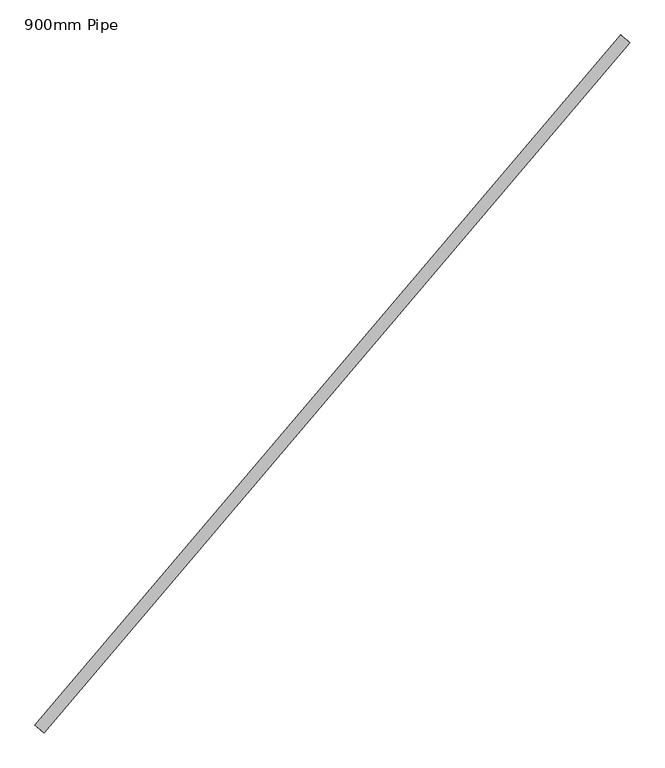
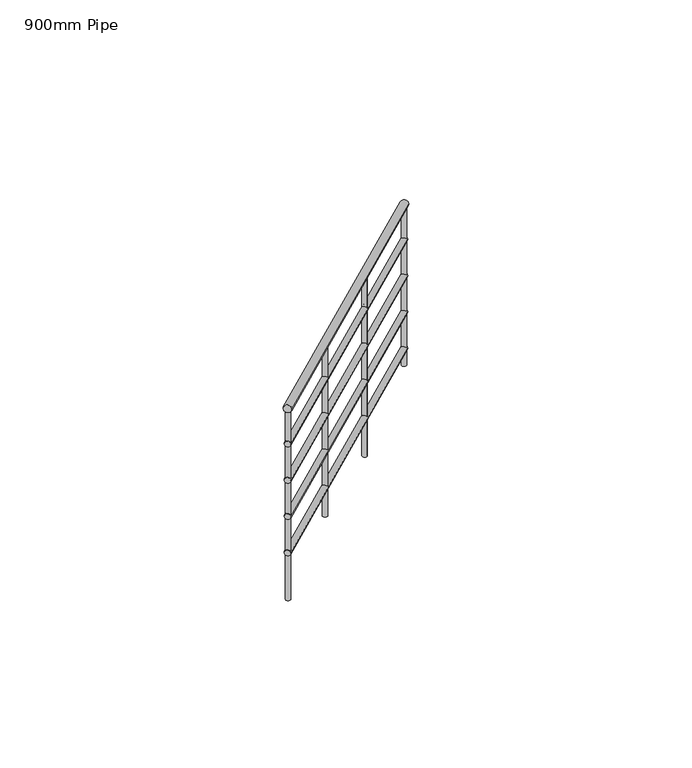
"""IFC4 building model written with IfcOpenShell, lengths in millimetres: railing geometry, 900mm Pipe."""

from ifc_helpers import new_model, si_unit, frame, origin, place, context, project, spatial, circle_curve, ellipse_curve, source, transform, mapped, element, save
from ifc_brep_helpers import plane_surface, cylinder_surface, advanced_brep


def railing_900mm_pipe_11be932a(model_context):
    return source(origin(), model_context, "Body", "AdvancedBrep", [
        advanced_brep(
        [(827493.1273699, 68499.8364293, 1058.386247), (827523.6148801, 68473.9421881, 1058.386247), (825588.5710626, 66257.4390055, 1954.8568352), (825619.0585727, 66231.5447644, 1954.8568352)],
        [
            (0, 1, ellipse_curve(frame((827508.371125, 68486.8893087, 1058.386247), z_axis=(0.6473560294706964, 0.7621877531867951, 0.0), x_axis=(0.0, 0.0, -1.0)), 20.9078706, 20.0)),
            (1, 0, ellipse_curve(frame((827508.371125, 68486.8893087, 1058.386247), z_axis=(0.6473560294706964, 0.7621877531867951, 0.0), x_axis=(0.0, 0.0, -1.0)), 20.9078706, 20.0)),
            (2, 3, ellipse_curve(frame((825603.8148176, 66244.4918849, 1954.8568352), z_axis=(-0.6473560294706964, -0.7621877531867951, 0.0), x_axis=(0.0, 0.0, -1.0)), 20.9078706, 20.0)),
            (3, 2, ellipse_curve(frame((825603.8148176, 66244.4918849, 1954.8568352), z_axis=(-0.6473560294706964, -0.7621877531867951, 0.0), x_axis=(0.0, 0.0, -1.0)), 20.9078706, 20.0)),
            (1, 3),
            (2, 0),
        ],
        [
            plane_surface(frame((827508.371125, 68486.8893087, 1079.2941176), z_axis=(0.6473560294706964, 0.7621877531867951, 0.0), x_axis=(0.7621877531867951, -0.6473560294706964, 0.0))),
            plane_surface(frame((825603.8148176, 66244.4918849, 1975.7647059), z_axis=(-0.6473560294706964, -0.7621877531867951, 0.0), x_axis=(0.7621877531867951, -0.6473560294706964, 0.0))),
            cylinder_surface(frame((827504.5973256, 68482.4460912, 1060.1625663), z_axis=(0.6192462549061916, 0.7290917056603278, -0.2914778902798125), x_axis=(0.7621877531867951, -0.6473560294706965, 0.0)), 20.0),
        ],
        [
            (0, [[1, 2]]),
            (1, [[3, 4]]),
            (2, [[-2, 5, -3, 6]]),
            (2, [[-1, -6, -4, -5]]),
        ],
    ),
        advanced_brep(
        [(827496.9383087, 68496.5996492, 863.6132147), (827519.8039413, 68477.1789683, 863.6132147), (825592.3820013, 66254.2022254, 1760.0838029), (825615.2476339, 66234.7815445, 1760.0838029)],
        [
            (0, 1, ellipse_curve(frame((827508.371125, 68486.8893087, 863.6132147), z_axis=(0.6473560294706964, 0.7621877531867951, 0.0), x_axis=(0.0, 0.0, -1.0)), 15.680903, 15.0)),
            (1, 0, ellipse_curve(frame((827508.371125, 68486.8893087, 863.6132147), z_axis=(0.6473560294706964, 0.7621877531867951, 0.0), x_axis=(0.0, 0.0, -1.0)), 15.680903, 15.0)),
            (2, 3, ellipse_curve(frame((825603.8148176, 66244.4918849, 1760.0838029), z_axis=(-0.6473560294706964, -0.7621877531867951, 0.0), x_axis=(0.0, 0.0, -1.0)), 15.680903, 15.0)),
            (3, 2, ellipse_curve(frame((825603.8148176, 66244.4918849, 1760.0838029), z_axis=(-0.6473560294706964, -0.7621877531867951, 0.0), x_axis=(0.0, 0.0, -1.0)), 15.680903, 15.0)),
            (0, 2),
            (3, 1),
        ],
        [
            plane_surface(frame((827508.371125, 68486.8893087, 879.2941176), z_axis=(0.6473560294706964, 0.7621877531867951, 0.0), x_axis=(0.7621877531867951, -0.6473560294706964, 0.0))),
            plane_surface(frame((825603.8148176, 66244.4918849, 1775.7647059), z_axis=(-0.6473560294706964, -0.7621877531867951, 0.0), x_axis=(0.7621877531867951, -0.6473560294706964, 0.0))),
            cylinder_surface(frame((827505.5407755, 68483.5568955, 864.9454542), z_axis=(0.6192462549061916, 0.7290917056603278, -0.2914778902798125), x_axis=(0.7621877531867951, -0.6473560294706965, 0.0)), 15.0),
        ],
        [
            (0, [[1, 2]]),
            (1, [[3, 4]]),
            (2, [[-1, 5, -4, 6]]),
            (2, [[-2, -6, -3, -5]]),
        ],
    ),
        advanced_brep(
        [(827496.9383087, 68496.5996492, 663.6132147), (827519.8039413, 68477.1789683, 663.6132147), (825592.3820013, 66254.2022254, 1560.0838029), (825615.2476339, 66234.7815445, 1560.0838029)],
        [
            (0, 1, ellipse_curve(frame((827508.371125, 68486.8893087, 663.6132147), z_axis=(0.6473560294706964, 0.7621877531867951, 0.0), x_axis=(0.0, 0.0, -1.0)), 15.680903, 15.0)),
            (1, 0, ellipse_curve(frame((827508.371125, 68486.8893087, 663.6132147), z_axis=(0.6473560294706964, 0.7621877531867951, 0.0), x_axis=(0.0, 0.0, -1.0)), 15.680903, 15.0)),
            (2, 3, ellipse_curve(frame((825603.8148176, 66244.4918849, 1560.0838029), z_axis=(-0.6473560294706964, -0.7621877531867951, 0.0), x_axis=(0.0, 0.0, -1.0)), 15.680903, 15.0)),
            (3, 2, ellipse_curve(frame((825603.8148176, 66244.4918849, 1560.0838029), z_axis=(-0.6473560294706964, -0.7621877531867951, 0.0), x_axis=(0.0, 0.0, -1.0)), 15.680903, 15.0)),
            (0, 2),
            (3, 1),
        ],
        [
            plane_surface(frame((827508.371125, 68486.8893087, 679.2941176), z_axis=(0.6473560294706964, 0.7621877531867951, 0.0), x_axis=(0.7621877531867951, -0.6473560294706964, 0.0))),
            plane_surface(frame((825603.8148176, 66244.4918849, 1575.7647059), z_axis=(-0.6473560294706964, -0.7621877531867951, 0.0), x_axis=(0.7621877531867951, -0.6473560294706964, 0.0))),
            cylinder_surface(frame((827505.5407755, 68483.5568955, 664.9454542), z_axis=(0.6192462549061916, 0.7290917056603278, -0.2914778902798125), x_axis=(0.7621877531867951, -0.6473560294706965, 0.0)), 15.0),
        ],
        [
            (0, [[1, 2]]),
            (1, [[3, 4]]),
            (2, [[-1, 5, -4, 6]]),
            (2, [[-2, -6, -3, -5]]),
        ],
    ),
        advanced_brep(
        [(827496.9383087, 68496.5996492, 463.6132147), (827519.8039413, 68477.1789683, 463.6132147), (825592.3820013, 66254.2022254, 1360.0838029), (825615.2476339, 66234.7815445, 1360.0838029)],
        [
            (0, 1, ellipse_curve(frame((827508.371125, 68486.8893087, 463.6132147), z_axis=(0.6473560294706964, 0.7621877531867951, 0.0), x_axis=(0.0, 0.0, -1.0)), 15.680903, 15.0)),
            (1, 0, ellipse_curve(frame((827508.371125, 68486.8893087, 463.6132147), z_axis=(0.6473560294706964, 0.7621877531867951, 0.0), x_axis=(0.0, 0.0, -1.0)), 15.680903, 15.0)),
            (2, 3, ellipse_curve(frame((825603.8148176, 66244.4918849, 1360.0838029), z_axis=(-0.6473560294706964, -0.7621877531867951, 0.0), x_axis=(0.0, 0.0, -1.0)), 15.680903, 15.0)),
            (3, 2, ellipse_curve(frame((825603.8148176, 66244.4918849, 1360.0838029), z_axis=(-0.6473560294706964, -0.7621877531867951, 0.0), x_axis=(0.0, 0.0, -1.0)), 15.680903, 15.0)),
            (0, 2),
            (3, 1),
        ],
        [
            plane_surface(frame((827508.371125, 68486.8893087, 479.2941176), z_axis=(0.6473560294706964, 0.7621877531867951, 0.0), x_axis=(0.7621877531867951, -0.6473560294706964, 0.0))),
            plane_surface(frame((825603.8148176, 66244.4918849, 1375.7647059), z_axis=(-0.6473560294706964, -0.7621877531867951, 0.0), x_axis=(0.7621877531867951, -0.6473560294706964, 0.0))),
            cylinder_surface(frame((827505.5407755, 68483.5568955, 464.9454542), z_axis=(0.6192462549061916, 0.7290917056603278, -0.2914778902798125), x_axis=(0.7621877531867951, -0.6473560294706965, 0.0)), 15.0),
        ],
        [
            (0, [[1, 2]]),
            (1, [[3, 4]]),
            (2, [[-1, 5, -4, 6]]),
            (2, [[-2, -6, -3, -5]]),
        ],
    ),
        advanced_brep(
        [(827496.9383087, 68496.5996492, 263.6132147), (827519.8039413, 68477.1789683, 263.6132147), (825592.3820013, 66254.2022254, 1160.0838029), (825615.2476339, 66234.7815445, 1160.0838029)],
        [
            (0, 1, ellipse_curve(frame((827508.371125, 68486.8893087, 263.6132147), z_axis=(0.6473560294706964, 0.7621877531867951, 0.0), x_axis=(0.0, 0.0, -1.0)), 15.680903, 15.0)),
            (1, 0, ellipse_curve(frame((827508.371125, 68486.8893087, 263.6132147), z_axis=(0.6473560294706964, 0.7621877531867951, 0.0), x_axis=(0.0, 0.0, -1.0)), 15.680903, 15.0)),
            (2, 3, ellipse_curve(frame((825603.8148176, 66244.4918849, 1160.0838029), z_axis=(-0.6473560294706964, -0.7621877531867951, 0.0), x_axis=(0.0, 0.0, -1.0)), 15.680903, 15.0)),
            (3, 2, ellipse_curve(frame((825603.8148176, 66244.4918849, 1160.0838029), z_axis=(-0.6473560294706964, -0.7621877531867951, 0.0), x_axis=(0.0, 0.0, -1.0)), 15.680903, 15.0)),
            (0, 2),
            (3, 1),
        ],
        [
            plane_surface(frame((827508.371125, 68486.8893087, 279.2941176), z_axis=(0.6473560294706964, 0.7621877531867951, 0.0), x_axis=(0.7621877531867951, -0.6473560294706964, 0.0))),
            plane_surface(frame((825603.8148176, 66244.4918849, 1175.7647059), z_axis=(-0.6473560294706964, -0.7621877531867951, 0.0), x_axis=(0.7621877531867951, -0.6473560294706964, 0.0))),
            cylinder_surface(frame((827505.5407755, 68483.5568955, 264.9454542), z_axis=(0.6192462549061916, 0.7290917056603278, -0.2914778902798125), x_axis=(0.7621877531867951, -0.6473560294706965, 0.0)), 15.0),
        ],
        [
            (0, [[1, 2]]),
            (1, [[3, 4]]),
            (2, [[-1, 5, -4, 6]]),
            (2, [[-2, -6, -3, -5]]),
        ],
    ),
        advanced_brep(
        [(826223.186413, 66954.421852, 1646.8965794), (826204.1317192, 66970.6057527, 1646.8965794), (826204.1317192, 66970.6057527, 717.1764706), (826223.186413, 66954.421852, 717.1764706)],
        [
            (0, 1, ellipse_curve(frame((826213.6590661, 66962.5138024, 1646.8965794), z_axis=(-0.18868996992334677, -0.22216087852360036, -0.9565775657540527), x_axis=(-0.6192462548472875, -0.7290917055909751, 0.29147789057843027)), 13.0674191, 12.5)),
            (1, 2),
            (2, 3, circle_curve(frame((826213.6590661, 66962.5138024, 717.1764706), z_axis=(0.0, 0.0, 1.0000000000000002), x_axis=(-0.7621877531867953, 0.6473560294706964, 0.0)), 12.5)),
            (3, 0),
            (3, 2, circle_curve(frame((826213.6590661, 66962.5138024, 717.1764706), z_axis=(0.0, 0.0, 1.0000000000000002), x_axis=(-0.7621877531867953, 0.6473560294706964, 0.0)), 12.5)),
            (1, 0, ellipse_curve(frame((826213.6590661, 66962.5138024, 1646.8965794), z_axis=(-0.18868996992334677, -0.22216087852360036, -0.9565775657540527), x_axis=(-0.6192462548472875, -0.7290917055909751, 0.29147789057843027)), 13.0674191, 12.5)),
        ],
        [
            cylinder_surface(frame((826213.6590661, 66962.5138024, 617.1764706), z_axis=(0.0, 0.0, 1.0000000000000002), x_axis=(-0.7621877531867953, 0.6473560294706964, 0.0)), 12.5),
            plane_surface(frame((826178.4204715, 66959.6430093, 1654.5143069), z_axis=(0.18868996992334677, 0.22216087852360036, 0.9565775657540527), x_axis=(0.7621877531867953, -0.6473560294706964, 0.0))),
            plane_surface(frame((826210.788273, 66997.7523969, 717.1764706), z_axis=(0.0, 0.0, -1.0000000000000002), x_axis=(0.7621877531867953, -0.6473560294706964, 0.0))),
        ],
        [
            (0, [[1, 2, 3, 4]]),
            (0, [[5, -2, 6, -4]]),
            (1, [[-6, -1]]),
            (2, [[-5, -3]]),
        ],
    ),
        advanced_brep(
        [(826870.5424425, 67716.6096052, 1342.1874779), (826851.4877486, 67732.7935059, 1342.1874779), (826851.4877486, 67732.7935059, 358.5882353), (826870.5424425, 67716.6096052, 358.5882353)],
        [
            (0, 1, ellipse_curve(frame((826861.0150955, 67724.7015555, 1342.1874779), z_axis=(-0.18868996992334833, -0.2221608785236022, -0.956577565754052), x_axis=(-0.6192462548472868, -0.7290917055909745, 0.2914778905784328)), 13.0674191, 12.5)),
            (1, 2),
            (2, 3, circle_curve(frame((826861.0150955, 67724.7015555, 358.5882353), z_axis=(0.0, 0.0, 1.0000000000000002), x_axis=(-0.7621877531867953, 0.6473560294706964, 0.0)), 12.5)),
            (3, 0),
            (3, 2, circle_curve(frame((826861.0150955, 67724.7015555, 358.5882353), z_axis=(0.0, 0.0, 1.0000000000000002), x_axis=(-0.7621877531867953, 0.6473560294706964, 0.0)), 12.5)),
            (1, 0, ellipse_curve(frame((826861.0150955, 67724.7015555, 1342.1874779), z_axis=(-0.18868996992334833, -0.2221608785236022, -0.956577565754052), x_axis=(-0.6192462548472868, -0.7290917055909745, 0.2914778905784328)), 13.0674191, 12.5)),
        ],
        [
            cylinder_surface(frame((826861.0150955, 67724.7015555, 258.5882353), z_axis=(0.0, 0.0, 1.0000000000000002), x_axis=(-0.7621877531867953, 0.6473560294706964, 0.0)), 12.5),
            plane_surface(frame((826825.776501, 67721.8307624, 1349.8052054), z_axis=(0.18868996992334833, 0.2221608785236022, 0.956577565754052), x_axis=(0.7621877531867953, -0.6473560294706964, 0.0))),
            plane_surface(frame((826858.1443024, 67759.9401501, 358.5882353), z_axis=(0.0, 0.0, -1.0000000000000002), x_axis=(0.7621877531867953, -0.6473560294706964, 0.0))),
        ],
        [
            (0, [[1, 2, 3, 4]]),
            (0, [[5, -2, 6, -4]]),
            (1, [[-6, -1]]),
            (2, [[-5, -3]]),
        ],
    ),
        advanced_brep(
        [(825621.4341149, 66245.9272815, 1930.1401008), (825602.3794211, 66262.1111822, 1930.1401008), (825602.3794211, 66262.1111822, 896.4705882), (825621.4341149, 66245.9272815, 896.4705882)],
        [
            (0, 1, ellipse_curve(frame((825611.906768, 66254.0192319, 1930.1401008), z_axis=(-0.18868996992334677, -0.22216087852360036, -0.9565775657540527), x_axis=(-0.6192462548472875, -0.7290917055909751, 0.29147789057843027)), 13.0674191, 12.5)),
            (1, 2),
            (2, 3, circle_curve(frame((825611.906768, 66254.0192319, 896.4705882), z_axis=(0.0, 0.0, 1.0000000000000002), x_axis=(-0.7621877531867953, 0.6473560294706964, 0.0)), 12.5)),
            (3, 0),
            (3, 2, circle_curve(frame((825611.906768, 66254.0192319, 896.4705882), z_axis=(0.0, 0.0, 1.0000000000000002), x_axis=(-0.7621877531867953, 0.6473560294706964, 0.0)), 12.5)),
            (1, 0, ellipse_curve(frame((825611.906768, 66254.0192319, 1930.1401008), z_axis=(-0.18868996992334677, -0.22216087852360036, -0.9565775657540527), x_axis=(-0.6192462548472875, -0.7290917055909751, 0.29147789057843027)), 13.0674191, 12.5)),
        ],
        [
            cylinder_surface(frame((825611.906768, 66254.0192319, 796.4705882), z_axis=(0.0, 0.0, 1.0000000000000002), x_axis=(-0.7621877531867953, 0.6473560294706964, 0.0)), 12.5),
            plane_surface(frame((825576.6681734, 66251.1484388, 1937.7578284), z_axis=(0.18868996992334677, 0.22216087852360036, 0.9565775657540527), x_axis=(0.7621877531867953, -0.6473560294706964, 0.0))),
            plane_surface(frame((825609.0359749, 66289.2578264, 896.4705882), z_axis=(0.0, 0.0, -1.0000000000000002), x_axis=(0.7621877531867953, -0.6473560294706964, 0.0))),
        ],
        [
            (0, [[1, 2, 3, 4]]),
            (0, [[5, -2, 6, -4]]),
            (1, [[-6, -1]]),
            (2, [[-5, -3]]),
        ],
    ),
        advanced_brep(
        [(827509.8065216, 68469.2700114, 1041.2872401), (827490.7518277, 68485.4539122, 1041.2872401), (827490.7518277, 68485.4539122, 179.2941176), (827509.8065216, 68469.2700114, 179.2941176)],
        [
            (0, 1, ellipse_curve(frame((827500.2791746, 68477.3619618, 1041.2872401), z_axis=(-0.18868996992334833, -0.2221608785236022, -0.956577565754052), x_axis=(-0.6192462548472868, -0.7290917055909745, 0.2914778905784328)), 13.0674191, 12.5)),
            (1, 2),
            (2, 3, circle_curve(frame((827500.2791746, 68477.3619618, 179.2941176), z_axis=(0.0, 0.0, 1.0000000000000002), x_axis=(-0.7621877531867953, 0.6473560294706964, 0.0)), 12.5)),
            (3, 0),
            (3, 2, circle_curve(frame((827500.2791746, 68477.3619618, 179.2941176), z_axis=(0.0, 0.0, 1.0000000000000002), x_axis=(-0.7621877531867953, 0.6473560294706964, 0.0)), 12.5)),
            (1, 0, ellipse_curve(frame((827500.2791746, 68477.3619618, 1041.2872401), z_axis=(-0.18868996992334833, -0.2221608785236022, -0.956577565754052), x_axis=(-0.6192462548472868, -0.7290917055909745, 0.2914778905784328)), 13.0674191, 12.5)),
        ],
        [
            cylinder_surface(frame((827500.2791746, 68477.3619618, 79.2941176), z_axis=(0.0, 0.0, 1.0000000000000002), x_axis=(-0.7621877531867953, 0.6473560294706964, 0.0)), 12.5),
            plane_surface(frame((827465.0405801, 68474.4911687, 1048.9049677), z_axis=(0.18868996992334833, 0.2221608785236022, 0.956577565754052), x_axis=(0.7621877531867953, -0.6473560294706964, 0.0))),
            plane_surface(frame((827497.4083815, 68512.6005564, 179.2941176), z_axis=(0.0, 0.0, -1.0000000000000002), x_axis=(0.7621877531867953, -0.6473560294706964, 0.0))),
        ],
        [
            (0, [[1, 2, 3, 4]]),
            (0, [[5, -2, 6, -4]]),
            (1, [[-6, -1]]),
            (2, [[-5, -3]]),
        ],
    ),
    ])


if __name__ == "__main__":
    model = new_model("IFC4")
    model_context = context("Model", 3, world=origin())
    ifc_project = project(units=[si_unit("LENGTHUNIT", "METRE", prefix="MILLI")], contexts=[model_context])
    site = spatial("IfcSite", under=ifc_project)
    building = spatial("IfcBuilding", under=site)
    placement = place(None, origin())
    railing_900mm_pipe_shape = railing_900mm_pipe_11be932a(model_context)
    element("IfcRailing", 1, ObjectType="900mm Pipe", at=placement, inside=building, context=model_context, shape_type="MappedRepresentation", body=[
        mapped(railing_900mm_pipe_shape, transform((0.0, 0.0, 0.0), x_axis=(1.0, 0.0, 0.0), y_axis=(0.0, 1.0, 0.0), z_axis=(0.0, 0.0, 1.0))),
    ])
    save(model, "model.ifc")
